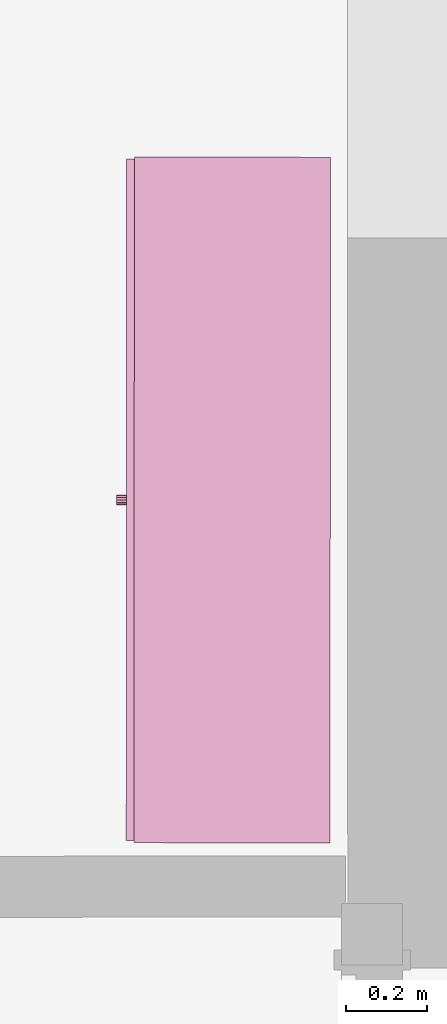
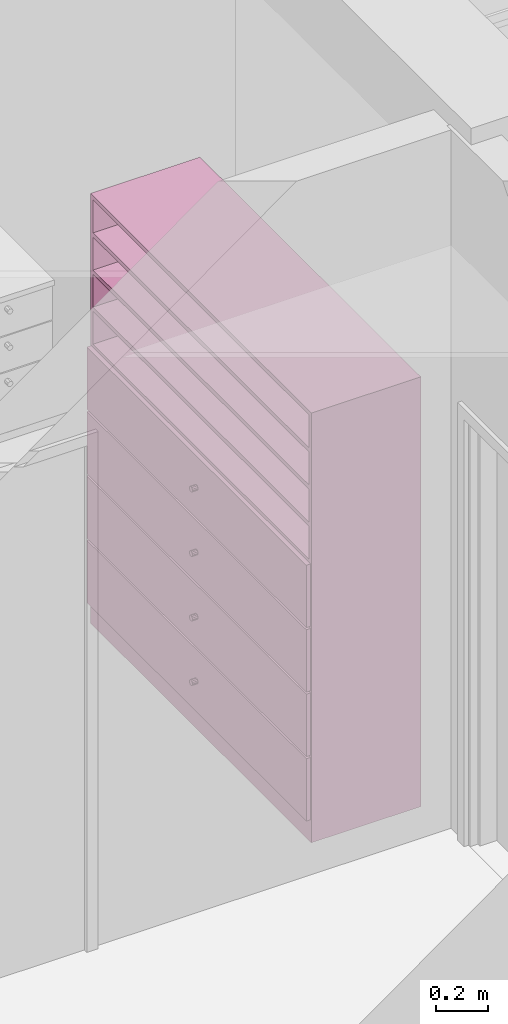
# One storey, part 169 of 194: 1 furnishing.
"""IFC2X3 building model written with IfcOpenShell, lengths in millimetres."""

from ifc_helpers import new_model, entity, si_unit, converted_unit, derived_unit, money_unit, direction, frame, origin_with_axes, place, context, subcontext, project, spatial, faceted_brep, type_object, element, save


model = new_model("IFC2X3")

# Units and contexts
model_context = context("Model", 3, precision=1e-05, world=origin_with_axes(), true_north=direction((0.0, 1.0)))
body_context = subcontext(model_context, "Body", "Model", "MODEL_VIEW")
ifc_project = project(units=[si_unit("LENGTHUNIT", "METRE", prefix="MILLI"), si_unit("AREAUNIT", "SQUARE_METRE"), si_unit("VOLUMEUNIT", "CUBIC_METRE"), converted_unit("PLANEANGLEUNIT", "DEGREE", entity("IfcPlaneAngleMeasure", 0.0174532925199), si_unit("PLANEANGLEUNIT", "RADIAN"), dimensions=[0, 0, 0, 0, 0, 0, 0]), si_unit("SOLIDANGLEUNIT", "STERADIAN"), money_unit("EUR"), converted_unit("TIMEUNIT", "Year", entity("IfcTimeMeasure", 31556926.0), si_unit("TIMEUNIT", "SECOND"), dimensions=[0, 0, 1, 0, 0, 0, 0]), si_unit("MASSUNIT", "GRAM", prefix="KILO"), si_unit("THERMODYNAMICTEMPERATUREUNIT", "DEGREE_CELSIUS"), si_unit("LUMINOUSINTENSITYUNIT", "LUMEN"), si_unit("ENERGYUNIT", "JOULE", prefix="MEGA"), derived_unit("THERMALCONDUCTANCEUNIT", [(si_unit("POWERUNIT", "WATT"), 1), (si_unit("LENGTHUNIT", "METRE"), -1), (si_unit("THERMODYNAMICTEMPERATUREUNIT", "KELVIN"), -1)]), derived_unit("SPECIFICHEATCAPACITYUNIT", [(si_unit("ENERGYUNIT", "JOULE"), 1), (si_unit("MASSUNIT", "GRAM", prefix="KILO"), -1), (si_unit("THERMODYNAMICTEMPERATUREUNIT", "KELVIN"), -1)]), derived_unit("MASSDENSITYUNIT", [(si_unit("MASSUNIT", "GRAM", prefix="KILO"), 1), (si_unit("VOLUMEUNIT", "CUBIC_METRE"), -1)])], contexts=[model_context])

# Site, building, storey
site_placement = place(None, origin_with_axes())
site = spatial("IfcSite", under=ifc_project, at=site_placement, Name="Site", CompositionType="ELEMENT")
building_placement = place(site_placement, origin_with_axes())
building = spatial("IfcBuilding", under=site, at=building_placement, Name="Building", CompositionType="ELEMENT")
storey_placement = place(building_placement, frame((0.0, 0.0, 3000.0), z_axis=(0.0, 0.0, 1.0), x_axis=(1.0, 0.0, 0.0)))
storey = spatial("IfcBuildingStorey", under=building, at=storey_placement, Name="2 KORRUS", CompositionType="ELEMENT", Elevation=3000.0)

# Furnishing
furnishing_element_type = type_object("IfcFurnishingElementType", Name="Model Element 48")
furnishing_placement = place(storey_placement, frame((60529.8224734, 44686.0820955, 0.0), z_axis=(0.0, 0.0, 1.0), x_axis=(-0.000642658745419, -0.999999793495, 0.0)))
element("IfcFurnishingElement", 1, at=furnishing_placement, inside=storey, type_object=furnishing_element_type, Name="FU - 001", context=body_context, shape_type="Brep", body=[
    faceted_brep([(1685.45325954, 19.0, 0.0), (0.0, 19.0, 0.0), (0.0, 501.095339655, 0.0), (1685.45325954, 501.095339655, 0.0), (1685.45325954, 19.0, 100.0), (0.0, 19.0, 100.0), (0.0, 501.095339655, 100.0), (1685.45325954, 501.095339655, 100.0)], [[[0, 1, 2, 3]], [[1, 0, 4, 5]], [[2, 1, 5, 6]], [[3, 2, 6, 7]], [[0, 3, 7, 4]], [[5, 4, 7, 6]]]),
    faceted_brep([(19.0, 501.095339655, 119.0), (19.0, 482.095339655, 119.0), (19.0, 482.095339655, 1981.0), (19.0, 501.095339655, 1981.0), (1666.45325954, 501.095339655, 119.0), (1666.45325954, 482.095339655, 119.0), (1666.45325954, 482.095339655, 1981.0), (1666.45325954, 501.095339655, 1981.0)], [[[0, 1, 2, 3]], [[0, 4, 5, 1]], [[1, 5, 6, 2]], [[3, 2, 6, 7]], [[4, 0, 3, 7]], [[5, 4, 7, 6]]]),
    faceted_brep([(1685.45325954, 19.0, 100.0), (1666.45325954, 19.0, 100.0), (1666.45325954, 501.095339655, 100.0), (1685.45325954, 501.095339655, 100.0), (1685.45325954, 19.0, 2000.0), (1666.45325954, 19.0, 2000.0), (1666.45325954, 501.095339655, 2000.0), (1685.45325954, 501.095339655, 2000.0)], [[[0, 1, 2, 3]], [[1, 0, 4, 5]], [[2, 1, 5, 6]], [[3, 2, 6, 7]], [[0, 3, 7, 4]], [[5, 4, 7, 6]]]),
    faceted_brep([(19.0, 19.0, 100.0), (0.0, 19.0, 100.0), (0.0, 501.095339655, 100.0), (19.0, 501.095339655, 100.0), (19.0, 19.0, 2000.0), (0.0, 19.0, 2000.0), (0.0, 501.095339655, 2000.0), (19.0, 501.095339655, 2000.0)], [[[0, 1, 2, 3]], [[1, 0, 4, 5]], [[2, 1, 5, 6]], [[3, 2, 6, 7]], [[0, 3, 7, 4]], [[5, 4, 7, 6]]]),
    faceted_brep([(1666.45325954, 19.0, 100.0), (19.0, 19.0, 100.0), (19.0, 501.095339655, 100.0), (1666.45325954, 501.095339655, 100.0), (1666.45325954, 19.0, 119.0), (19.0, 19.0, 119.0), (19.0, 501.095339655, 119.0), (1666.45325954, 501.095339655, 119.0)], [[[0, 1, 2, 3]], [[1, 0, 4, 5]], [[2, 1, 5, 6]], [[3, 2, 6, 7]], [[0, 3, 7, 4]], [[5, 4, 7, 6]]]),
    faceted_brep([(1666.45325954, 19.0, 1981.0), (19.0, 19.0, 1981.0), (19.0, 501.095339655, 1981.0), (1666.45325954, 501.095339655, 1981.0), (1666.45325954, 19.0, 2000.0), (19.0, 19.0, 2000.0), (19.0, 501.095339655, 2000.0), (1666.45325954, 501.095339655, 2000.0)], [[[0, 1, 2, 3]], [[1, 0, 4, 5]], [[2, 1, 5, 6]], [[3, 2, 6, 7]], [[0, 3, 7, 4]], [[5, 4, 7, 6]]]),
    faceted_brep([(5.0, 19.0, 105.0), (1680.45325954, 19.0, 105.0), (1680.45325954, 0.0, 105.0), (5.0, 0.0, 105.0), (5.0, 19.0, 395.0), (1680.45325954, 19.0, 395.0), (1680.45325954, 0.0, 395.0), (5.0, 0.0, 395.0)], [[[0, 1, 2, 3]], [[0, 4, 5, 1]], [[1, 5, 6, 2]], [[3, 2, 6, 7]], [[4, 0, 3, 7]], [[5, 4, 7, 6]]]),
    faceted_brep([(853.118934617, 0.0, 244.0), (848.726629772, 0.0, 239.607695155), (842.726629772, 0.0, 238.0), (836.726629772, 0.0, 239.607695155), (832.334324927, 0.0, 244.0), (830.726629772, 0.0, 250.0), (832.334324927, 0.0, 256.0), (836.726629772, 0.0, 260.392304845), (842.726629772, 0.0, 262.0), (848.726629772, 0.0, 260.392304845), (853.118934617, 0.0, 256.0), (854.726629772, 0.0, 250.0), (853.118934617, -25.0, 244.0), (848.726629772, -25.0, 239.607695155), (842.726629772, -25.0, 238.0), (836.726629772, -25.0, 239.607695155), (832.334324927, -25.0, 244.0), (830.726629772, -25.0, 250.0), (832.334324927, -25.0, 256.0), (836.726629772, -25.0, 260.392304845), (842.726629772, -25.0, 262.0), (848.726629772, -25.0, 260.392304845), (853.118934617, -25.0, 256.0), (854.726629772, -25.0, 250.0)], [[[0, 1, 2, 3, 4, 5, 6, 7, 8, 9, 10, 11]], [[1, 0, 12, 13]], [[2, 1, 13, 14]], [[3, 2, 14, 15]], [[4, 3, 15, 16]], [[5, 4, 16, 17]], [[6, 5, 17, 18]], [[7, 6, 18, 19]], [[8, 7, 19, 20]], [[9, 8, 20, 21]], [[10, 9, 21, 22]], [[11, 10, 22, 23]], [[0, 11, 23, 12]], [[12, 23, 22, 21, 20, 19, 18, 17, 16, 15, 14, 13]]]),
    faceted_brep([(5.0, 19.0, 405.0), (1680.45325954, 19.0, 405.0), (1680.45325954, 0.0, 405.0), (5.0, 0.0, 405.0), (5.0, 19.0, 695.0), (1680.45325954, 19.0, 695.0), (1680.45325954, 0.0, 695.0), (5.0, 0.0, 695.0)], [[[0, 1, 2, 3]], [[0, 4, 5, 1]], [[1, 5, 6, 2]], [[3, 2, 6, 7]], [[4, 0, 3, 7]], [[5, 4, 7, 6]]]),
    faceted_brep([(853.118934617, 0.0, 544.0), (848.726629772, 0.0, 539.607695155), (842.726629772, 0.0, 538.0), (836.726629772, 0.0, 539.607695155), (832.334324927, 0.0, 544.0), (830.726629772, 0.0, 550.0), (832.334324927, 0.0, 556.0), (836.726629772, 0.0, 560.392304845), (842.726629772, 0.0, 562.0), (848.726629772, 0.0, 560.392304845), (853.118934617, 0.0, 556.0), (854.726629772, 0.0, 550.0), (853.118934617, -25.0, 544.0), (848.726629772, -25.0, 539.607695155), (842.726629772, -25.0, 538.0), (836.726629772, -25.0, 539.607695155), (832.334324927, -25.0, 544.0), (830.726629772, -25.0, 550.0), (832.334324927, -25.0, 556.0), (836.726629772, -25.0, 560.392304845), (842.726629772, -25.0, 562.0), (848.726629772, -25.0, 560.392304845), (853.118934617, -25.0, 556.0), (854.726629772, -25.0, 550.0)], [[[0, 1, 2, 3, 4, 5, 6, 7, 8, 9, 10, 11]], [[1, 0, 12, 13]], [[2, 1, 13, 14]], [[3, 2, 14, 15]], [[4, 3, 15, 16]], [[5, 4, 16, 17]], [[6, 5, 17, 18]], [[7, 6, 18, 19]], [[8, 7, 19, 20]], [[9, 8, 20, 21]], [[10, 9, 21, 22]], [[11, 10, 22, 23]], [[0, 11, 23, 12]], [[12, 23, 22, 21, 20, 19, 18, 17, 16, 15, 14, 13]]]),
    faceted_brep([(5.0, 19.0, 705.0), (1680.45325954, 19.0, 705.0), (1680.45325954, 0.0, 705.0), (5.0, 0.0, 705.0), (5.0, 19.0, 995.0), (1680.45325954, 19.0, 995.0), (1680.45325954, 0.0, 995.0), (5.0, 0.0, 995.0)], [[[0, 1, 2, 3]], [[0, 4, 5, 1]], [[1, 5, 6, 2]], [[3, 2, 6, 7]], [[4, 0, 3, 7]], [[5, 4, 7, 6]]]),
    faceted_brep([(853.118934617, 0.0, 844.0), (848.726629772, 0.0, 839.607695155), (842.726629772, 0.0, 838.0), (836.726629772, 0.0, 839.607695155), (832.334324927, 0.0, 844.0), (830.726629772, 0.0, 850.0), (832.334324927, 0.0, 856.0), (836.726629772, 0.0, 860.392304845), (842.726629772, 0.0, 862.0), (848.726629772, 0.0, 860.392304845), (853.118934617, 0.0, 856.0), (854.726629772, 0.0, 850.0), (853.118934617, -25.0, 844.0), (848.726629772, -25.0, 839.607695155), (842.726629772, -25.0, 838.0), (836.726629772, -25.0, 839.607695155), (832.334324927, -25.0, 844.0), (830.726629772, -25.0, 850.0), (832.334324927, -25.0, 856.0), (836.726629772, -25.0, 860.392304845), (842.726629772, -25.0, 862.0), (848.726629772, -25.0, 860.392304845), (853.118934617, -25.0, 856.0), (854.726629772, -25.0, 850.0)], [[[0, 1, 2, 3, 4, 5, 6, 7, 8, 9, 10, 11]], [[1, 0, 12, 13]], [[2, 1, 13, 14]], [[3, 2, 14, 15]], [[4, 3, 15, 16]], [[5, 4, 16, 17]], [[6, 5, 17, 18]], [[7, 6, 18, 19]], [[8, 7, 19, 20]], [[9, 8, 20, 21]], [[10, 9, 21, 22]], [[11, 10, 22, 23]], [[0, 11, 23, 12]], [[12, 23, 22, 21, 20, 19, 18, 17, 16, 15, 14, 13]]]),
    faceted_brep([(5.0, 19.0, 1005.0), (1680.45325954, 19.0, 1005.0), (1680.45325954, 0.0, 1005.0), (5.0, 0.0, 1005.0), (5.0, 19.0, 1295.0), (1680.45325954, 19.0, 1295.0), (1680.45325954, 0.0, 1295.0), (5.0, 0.0, 1295.0)], [[[0, 1, 2, 3]], [[0, 4, 5, 1]], [[1, 5, 6, 2]], [[3, 2, 6, 7]], [[4, 0, 3, 7]], [[5, 4, 7, 6]]]),
    faceted_brep([(853.118934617, 0.0, 1144.0), (848.726629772, 0.0, 1139.60769515), (842.726629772, 0.0, 1138.0), (836.726629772, 0.0, 1139.60769515), (832.334324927, 0.0, 1144.0), (830.726629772, 0.0, 1150.0), (832.334324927, 0.0, 1156.0), (836.726629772, 0.0, 1160.39230485), (842.726629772, 0.0, 1162.0), (848.726629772, 0.0, 1160.39230485), (853.118934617, 0.0, 1156.0), (854.726629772, 0.0, 1150.0), (853.118934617, -25.0, 1144.0), (848.726629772, -25.0, 1139.60769515), (842.726629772, -25.0, 1138.0), (836.726629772, -25.0, 1139.60769515), (832.334324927, -25.0, 1144.0), (830.726629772, -25.0, 1150.0), (832.334324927, -25.0, 1156.0), (836.726629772, -25.0, 1160.39230485), (842.726629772, -25.0, 1162.0), (848.726629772, -25.0, 1160.39230485), (853.118934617, -25.0, 1156.0), (854.726629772, -25.0, 1150.0)], [[[0, 1, 2, 3, 4, 5, 6, 7, 8, 9, 10, 11]], [[1, 0, 12, 13]], [[2, 1, 13, 14]], [[3, 2, 14, 15]], [[4, 3, 15, 16]], [[5, 4, 16, 17]], [[6, 5, 17, 18]], [[7, 6, 18, 19]], [[8, 7, 19, 20]], [[9, 8, 20, 21]], [[10, 9, 21, 22]], [[11, 10, 22, 23]], [[0, 11, 23, 12]], [[12, 23, 22, 21, 20, 19, 18, 17, 16, 15, 14, 13]]]),
    faceted_brep([(19.0, 19.0, 390.5), (1666.45325954, 19.0, 390.5), (1666.45325954, 19.0, 409.5), (19.0, 19.0, 409.5), (19.0, 482.095339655, 390.5), (1666.45325954, 482.095339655, 390.5), (1666.45325954, 482.095339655, 409.5), (19.0, 482.095339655, 409.5)], [[[0, 1, 2, 3]], [[0, 4, 5, 1]], [[1, 5, 6, 2]], [[3, 2, 6, 7]], [[4, 0, 3, 7]], [[5, 4, 7, 6]]]),
    faceted_brep([(19.0, 19.0, 690.5), (1666.45325954, 19.0, 690.5), (1666.45325954, 19.0, 709.5), (19.0, 19.0, 709.5), (19.0, 482.095339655, 690.5), (1666.45325954, 482.095339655, 690.5), (1666.45325954, 482.095339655, 709.5), (19.0, 482.095339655, 709.5)], [[[0, 1, 2, 3]], [[0, 4, 5, 1]], [[1, 5, 6, 2]], [[3, 2, 6, 7]], [[4, 0, 3, 7]], [[5, 4, 7, 6]]]),
    faceted_brep([(19.0, 19.0, 990.5), (1666.45325954, 19.0, 990.5), (1666.45325954, 19.0, 1009.5), (19.0, 19.0, 1009.5), (19.0, 482.095339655, 990.5), (1666.45325954, 482.095339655, 990.5), (1666.45325954, 482.095339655, 1009.5), (19.0, 482.095339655, 1009.5)], [[[0, 1, 2, 3]], [[0, 4, 5, 1]], [[1, 5, 6, 2]], [[3, 2, 6, 7]], [[4, 0, 3, 7]], [[5, 4, 7, 6]]]),
    faceted_brep([(19.0, 19.0, 1290.5), (1666.45325954, 19.0, 1290.5), (1666.45325954, 19.0, 1309.5), (19.0, 19.0, 1309.5), (19.0, 482.095339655, 1290.5), (1666.45325954, 482.095339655, 1290.5), (1666.45325954, 482.095339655, 1309.5), (19.0, 482.095339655, 1309.5)], [[[0, 1, 2, 3]], [[0, 4, 5, 1]], [[1, 5, 6, 2]], [[3, 2, 6, 7]], [[4, 0, 3, 7]], [[5, 4, 7, 6]]]),
    faceted_brep([(1666.45325954, 19.0, 1463.125), (19.0, 19.0, 1463.125), (19.0, 482.095339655, 1463.125), (1666.45325954, 482.095339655, 1463.125), (1666.45325954, 19.0, 1482.125), (19.0, 19.0, 1482.125), (19.0, 482.095339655, 1482.125), (1666.45325954, 482.095339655, 1482.125)], [[[0, 1, 2, 3]], [[1, 0, 4, 5]], [[2, 1, 5, 6]], [[3, 2, 6, 7]], [[0, 3, 7, 4]], [[5, 4, 7, 6]]]),
    faceted_brep([(1666.45325954, 19.0, 1635.75), (19.0, 19.0, 1635.75), (19.0, 482.095339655, 1635.75), (1666.45325954, 482.095339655, 1635.75), (1666.45325954, 19.0, 1654.75), (19.0, 19.0, 1654.75), (19.0, 482.095339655, 1654.75), (1666.45325954, 482.095339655, 1654.75)], [[[0, 1, 2, 3]], [[1, 0, 4, 5]], [[2, 1, 5, 6]], [[3, 2, 6, 7]], [[0, 3, 7, 4]], [[5, 4, 7, 6]]]),
    faceted_brep([(1666.45325954, 19.0, 1808.375), (19.0, 19.0, 1808.375), (19.0, 482.095339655, 1808.375), (1666.45325954, 482.095339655, 1808.375), (1666.45325954, 19.0, 1827.375), (19.0, 19.0, 1827.375), (19.0, 482.095339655, 1827.375), (1666.45325954, 482.095339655, 1827.375)], [[[0, 1, 2, 3]], [[1, 0, 4, 5]], [[2, 1, 5, 6]], [[3, 2, 6, 7]], [[0, 3, 7, 4]], [[5, 4, 7, 6]]]),
])

save(model, "model.ifc")
